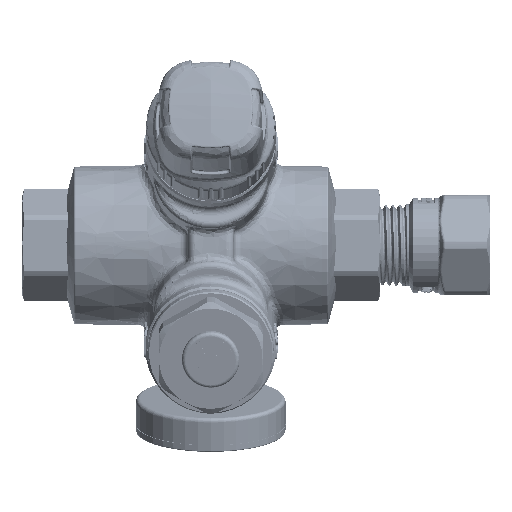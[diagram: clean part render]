
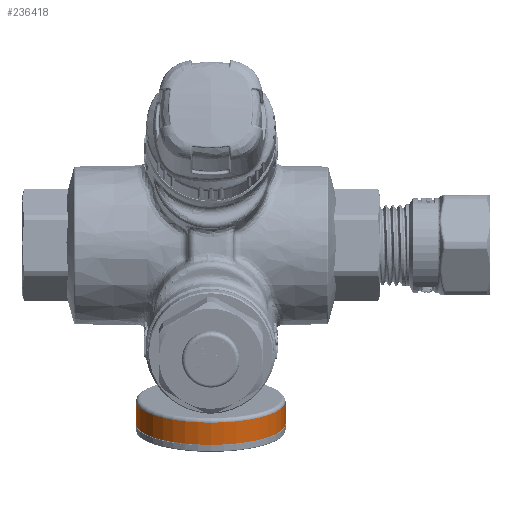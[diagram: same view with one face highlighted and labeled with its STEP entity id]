
A CAD part, top view. The second image highlights one B-rep face of the part: STEP entity #236418.
In plain terms, the highlighted cylindrical face has radius 19.5 mm (diameter 39 mm), a partial arc.
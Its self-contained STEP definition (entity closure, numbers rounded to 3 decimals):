
#196546 = TOROIDAL_SURFACE('',#196547,18.5,1.);
#196547 = AXIS2_PLACEMENT_3D('',#196548,#196549,#196550);
#196548 = CARTESIAN_POINT('',(-0.02,36.849,
    30.845));
#196549 = DIRECTION('',(0.,-0.959,
    -0.282));
#196550 = DIRECTION('',(-1.,0.002,
    -0.006));
#236263 = PLANE('',#236264);
#236264 = AXIS2_PLACEMENT_3D('',#236265,#236266,#236267);
#236265 = CARTESIAN_POINT('',(-0.02,31.093,
    29.151));
#236266 = DIRECTION('',(0.,-0.959,
    -0.282));
#236267 = DIRECTION('',(-1.,0.,0.));
#236354 = VERTEX_POINT('',#236355);
#236355 = CARTESIAN_POINT('',(19.48,31.093,
    29.151));
#236356 = VERTEX_POINT('',#236357);
#236357 = CARTESIAN_POINT('',(-19.52,31.093,
    29.151));
#236376 = CYLINDRICAL_SURFACE('',#236377,19.5);
#236377 = AXIS2_PLACEMENT_3D('',#236378,#236379,#236380);
#236378 = CARTESIAN_POINT('',(-0.02,48.313,
    34.218));
#236379 = DIRECTION('',(0.,-0.959,
    -0.282));
#236380 = DIRECTION('',(-1.,0.,0.));
#236388 = EDGE_CURVE('',#236354,#236356,#236389,.T.);
#236389 = SURFACE_CURVE('',#236390,(#236395,#236402),.PCURVE_S1.);
#236390 = CIRCLE('',#236391,19.5);
#236391 = AXIS2_PLACEMENT_3D('',#236392,#236393,#236394);
#236392 = CARTESIAN_POINT('',(-0.02,31.093,
    29.151));
#236393 = DIRECTION('',(0.,-0.959,
    -0.282));
#236394 = DIRECTION('',(1.,0.,0.));
#236395 = PCURVE('',#236263,#236396);
#236396 = DEFINITIONAL_REPRESENTATION('',(#236397),#236401);
#236397 = CIRCLE('',#236398,19.5);
#236398 = AXIS2_PLACEMENT_2D('',#236399,#236400);
#236399 = CARTESIAN_POINT('',(0.,0.));
#236400 = DIRECTION('',(-1.,0.));
#236401 = ( GEOMETRIC_REPRESENTATION_CONTEXT(2) 
PARAMETRIC_REPRESENTATION_CONTEXT() REPRESENTATION_CONTEXT('2D SPACE',''
  ) );
#236402 = PCURVE('',#236403,#236408);
#236403 = CYLINDRICAL_SURFACE('',#236404,19.5);
#236404 = AXIS2_PLACEMENT_3D('',#236405,#236406,#236407);
#236405 = CARTESIAN_POINT('',(-0.02,48.313,
    34.218));
#236406 = DIRECTION('',(0.,-0.959,
    -0.282));
#236407 = DIRECTION('',(-1.,0.,0.));
#236408 = DEFINITIONAL_REPRESENTATION('',(#236409),#236413);
#236409 = LINE('',#236410,#236411);
#236410 = CARTESIAN_POINT('',(3.142,17.95));
#236411 = VECTOR('',#236412,1.);
#236412 = DIRECTION('',(1.,0.));
#236413 = ( GEOMETRIC_REPRESENTATION_CONTEXT(2) 
PARAMETRIC_REPRESENTATION_CONTEXT() REPRESENTATION_CONTEXT('2D SPACE',''
  ) );
#236418 = ADVANCED_FACE('',(#236419),#236403,.T.);
#236419 = FACE_BOUND('',#236420,.T.);
#236420 = EDGE_LOOP('',(#236421,#236444,#236445,#236468));
#236421 = ORIENTED_EDGE('',*,*,#236422,.F.);
#236422 = EDGE_CURVE('',#236356,#236423,#236425,.T.);
#236423 = VERTEX_POINT('',#236424);
#236424 = CARTESIAN_POINT('',(-19.52,36.849,
    30.845));
#236425 = SURFACE_CURVE('',#236426,(#236430,#236437),.PCURVE_S1.);
#236426 = LINE('',#236427,#236428);
#236427 = CARTESIAN_POINT('',(-19.52,31.093,
    29.151));
#236428 = VECTOR('',#236429,1.);
#236429 = DIRECTION('',(0.,0.959,0.282));
#236430 = PCURVE('',#236403,#236431);
#236431 = DEFINITIONAL_REPRESENTATION('',(#236432),#236436);
#236432 = LINE('',#236433,#236434);
#236433 = CARTESIAN_POINT('',(6.283,17.95));
#236434 = VECTOR('',#236435,1.);
#236435 = DIRECTION('',(0.,-1.));
#236436 = ( GEOMETRIC_REPRESENTATION_CONTEXT(2) 
PARAMETRIC_REPRESENTATION_CONTEXT() REPRESENTATION_CONTEXT('2D SPACE',''
  ) );
#236437 = PCURVE('',#236376,#236438);
#236438 = DEFINITIONAL_REPRESENTATION('',(#236439),#236443);
#236439 = LINE('',#236440,#236441);
#236440 = CARTESIAN_POINT('',(0.,17.95));
#236441 = VECTOR('',#236442,1.);
#236442 = DIRECTION('',(0.,-1.));
#236443 = ( GEOMETRIC_REPRESENTATION_CONTEXT(2) 
PARAMETRIC_REPRESENTATION_CONTEXT() REPRESENTATION_CONTEXT('2D SPACE',''
  ) );
#236444 = ORIENTED_EDGE('',*,*,#236388,.F.);
#236445 = ORIENTED_EDGE('',*,*,#236446,.T.);
#236446 = EDGE_CURVE('',#236354,#236447,#236449,.T.);
#236447 = VERTEX_POINT('',#236448);
#236448 = CARTESIAN_POINT('',(19.48,36.849,
    30.845));
#236449 = SURFACE_CURVE('',#236450,(#236454,#236461),.PCURVE_S1.);
#236450 = LINE('',#236451,#236452);
#236451 = CARTESIAN_POINT('',(19.48,31.093,
    29.151));
#236452 = VECTOR('',#236453,1.);
#236453 = DIRECTION('',(0.,0.959,0.282));
#236454 = PCURVE('',#236403,#236455);
#236455 = DEFINITIONAL_REPRESENTATION('',(#236456),#236460);
#236456 = LINE('',#236457,#236458);
#236457 = CARTESIAN_POINT('',(3.142,17.95));
#236458 = VECTOR('',#236459,1.);
#236459 = DIRECTION('',(0.,-1.));
#236460 = ( GEOMETRIC_REPRESENTATION_CONTEXT(2) 
PARAMETRIC_REPRESENTATION_CONTEXT() REPRESENTATION_CONTEXT('2D SPACE',''
  ) );
#236461 = PCURVE('',#236376,#236462);
#236462 = DEFINITIONAL_REPRESENTATION('',(#236463),#236467);
#236463 = LINE('',#236464,#236465);
#236464 = CARTESIAN_POINT('',(3.142,17.95));
#236465 = VECTOR('',#236466,1.);
#236466 = DIRECTION('',(0.,-1.));
#236467 = ( GEOMETRIC_REPRESENTATION_CONTEXT(2) 
PARAMETRIC_REPRESENTATION_CONTEXT() REPRESENTATION_CONTEXT('2D SPACE',''
  ) );
#236468 = ORIENTED_EDGE('',*,*,#236469,.F.);
#236469 = EDGE_CURVE('',#236423,#236447,#236470,.T.);
#236470 = SURFACE_CURVE('',#236471,(#236476,#236483),.PCURVE_S1.);
#236471 = CIRCLE('',#236472,19.5);
#236472 = AXIS2_PLACEMENT_3D('',#236473,#236474,#236475);
#236473 = CARTESIAN_POINT('',(-0.02,36.849,
    30.845));
#236474 = DIRECTION('',(0.,0.959,0.282)
  );
#236475 = DIRECTION('',(-1.,0.,0.));
#236476 = PCURVE('',#236403,#236477);
#236477 = DEFINITIONAL_REPRESENTATION('',(#236478),#236482);
#236478 = LINE('',#236479,#236480);
#236479 = CARTESIAN_POINT('',(6.283,11.95));
#236480 = VECTOR('',#236481,1.);
#236481 = DIRECTION('',(-1.,0.));
#236482 = ( GEOMETRIC_REPRESENTATION_CONTEXT(2) 
PARAMETRIC_REPRESENTATION_CONTEXT() REPRESENTATION_CONTEXT('2D SPACE',''
  ) );
#236483 = PCURVE('',#196546,#236484);
#236484 = DEFINITIONAL_REPRESENTATION('',(#236485),#236489);
#236485 = LINE('',#236486,#236487);
#236486 = CARTESIAN_POINT('',(6.277,6.283));
#236487 = VECTOR('',#236488,1.);
#236488 = DIRECTION('',(-1.,0.));
#236489 = ( GEOMETRIC_REPRESENTATION_CONTEXT(2) 
PARAMETRIC_REPRESENTATION_CONTEXT() REPRESENTATION_CONTEXT('2D SPACE',''
  ) );
